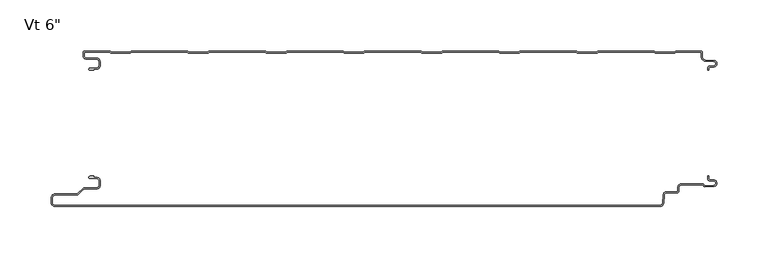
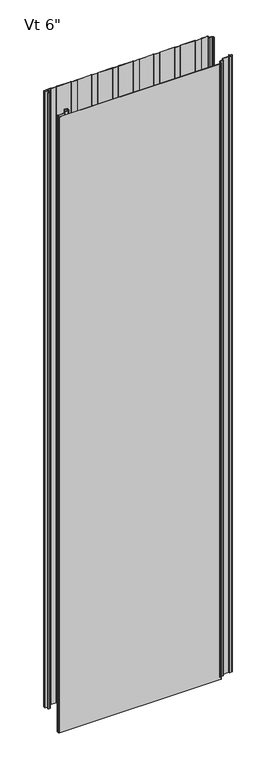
"""IFC4 building model written with IfcOpenShell, lengths in millimetres: plate geometry."""

from ifc_helpers import new_model, si_unit, point, frame, frame_2d, origin, origin_with_axes, place, context, project, spatial, polyline, circle_curve, trimmed, segment, composite_curve, outline, extrude, source, transform, mapped, element, save
from ifc_brep_helpers import plane_surface, cylinder_surface, revolved_surface, advanced_brep


def plate_540b2b8f(model_context):
    return source(origin(), model_context, "Body", "SolidModel", [
        advanced_brep(
        [(-302.7686912, -17.0015159, 2400.0), (-303.7686884, -18.0015191, 2400.0), (-302.7686912, -19.0015104, 2400.0), (-298.7684875, -19.0015105, 2400.0), (-298.7684875, -18.0015159, 2400.0), (-296.0762777, -18.0015159, 2400.0), (-292.776282, -14.7015202, 2400.0), (-292.776282, -10.301529, 2400.0), (-296.0762775, -7.0015335, 2400.0), (-306.4962564, -7.0015335, 2400.0), (-308.2662506, -5.2315393, 2400.0), (-308.2662506, -0.9999916, 2400.0), (-283.765974, -0.9999916, 2400.0), (-282.3803314, -2.2002307, 2400.0), (-263.0051651, -2.2002307, 2400.0), (-261.6195321, -1.0, 2400.0), (-207.5661167, -1.0, 2400.0), (-206.1804838, -2.2002307, 2400.0), (-186.8053175, -2.2002307, 2400.0), (-185.4196845, -1.0, 2400.0), (-131.3662691, -1.0, 2400.0), (-129.9806362, -2.2002307, 2400.0), (-110.6054699, -2.2002307, 2400.0), (-109.2198369, -1.0, 2400.0), (-55.1664215, -1.0, 2400.0), (-53.7807886, -2.2002307, 2400.0), (-34.4056223, -2.2002307, 2400.0), (-33.0199893, -1.0, 2400.0), (21.0334261, -1.0, 2400.0), (22.419059, -2.2002307, 2400.0), (41.7942253, -2.2002307, 2400.0), (43.1798583, -1.0, 2400.0), (97.2332737, -1.0, 2400.0), (98.6189066, -2.2002307, 2400.0), (117.9940729, -2.2002307, 2400.0), (119.3797059, -1.0, 2400.0), (173.4331213, -1.0, 2400.0), (174.8187542, -2.2002307, 2400.0), (194.1939205, -2.2002307, 2400.0), (195.5795535, -1.0, 2400.0), (249.6329689, -1.0, 2400.0), (251.0186018, -2.2002307, 2400.0), (270.3937681, -2.2002307, 2400.0), (271.7794011, -1.0, 2400.0), (296.2787013, -1.0, 2400.0), (296.2787013, -6.0026007, 2400.0), (300.1016499, -9.9974365, 2400.0), (308.5931719, -10.4046442, 2400.0), (308.5921924, -14.7059822, 2400.0), (304.4513685, -14.9256429, 2400.0), (302.7686884, -16.6743462, 2400.0), (302.7686884, -19.0015288, 2400.0), (303.7686884, -19.0015288, 2400.0), (303.7686884, -16.6743462, 2400.0), (304.4955779, -15.9247038, 2400.0), (308.6451655, -15.7045782, 2400.0), (308.6435732, -9.405912, 2400.0), (300.1495495, -8.9985844, 2400.0), (297.2787013, -6.0004836, 2400.0), (297.2787013, -1.4015652, 2400.0), (295.878797, -0.001568, 2400.0), (271.9275849, 2.09e-05, 2400.0), (271.0119353, -0.3417885, 2400.0), (270.0208877, -1.2002307, 2400.0), (251.3914823, -1.2002307, 2400.0), (250.4004346, -0.3417885, 2400.0), (249.4838177, 0.0, 2400.0), (195.7287046, 0.0, 2400.0), (194.8120877, -0.3417885, 2400.0), (193.8210401, -1.2002307, 2400.0), (175.1916347, -1.2002307, 2400.0), (174.200587, -0.3417885, 2400.0), (173.2839701, 0.0, 2400.0), (119.528857, 0.0, 2400.0), (118.6122401, -0.3417885, 2400.0), (117.6211925, -1.2002307, 2400.0), (98.9917871, -1.2002307, 2400.0), (98.0007394, -0.3417885, 2400.0), (97.0841225, 0.0, 2400.0), (43.3290094, 0.0, 2400.0), (42.4123925, -0.3417885, 2400.0), (41.4213449, -1.2002307, 2400.0), (22.7919395, -1.2002307, 2400.0), (21.8008918, -0.3417885, 2400.0), (20.8842749, 0.0, 2400.0), (-32.8708382, 0.0, 2400.0), (-33.7874551, -0.3417885, 2400.0), (-34.7785027, -1.2002307, 2400.0), (-53.4079081, -1.2002307, 2400.0), (-54.3989558, -0.3417885, 2400.0), (-55.3155727, 0.0, 2400.0), (-109.0706858, 0.0, 2400.0), (-109.9873027, -0.3417885, 2400.0), (-110.9783503, -1.2002307, 2400.0), (-129.6077557, -1.2002307, 2400.0), (-130.5988034, -0.3417885, 2400.0), (-131.5154203, 0.0, 2400.0), (-185.2705334, 0.0, 2400.0), (-186.1871503, -0.3417885, 2400.0), (-187.1781979, -1.2002307, 2400.0), (-205.8076033, -1.2002307, 2400.0), (-206.798651, -0.3417885, 2400.0), (-207.7152679, 0.0, 2400.0), (-261.470381, 0.0, 2400.0), (-262.3869979, -0.3417885, 2400.0), (-263.3780455, -1.2002307, 2400.0), (-282.0074509, -1.2002307, 2400.0), (-282.9984986, -0.3417885, 2400.0), (-283.9152069, 0.0, 2400.0), (-307.8662545, 8.4e-06, 2400.0), (-309.2662506, -1.3999878, 2400.0), (-309.2662506, -5.2315393, 2400.0), (-306.4962564, -8.0015335, 2400.0), (-296.0762775, -8.0015335, 2400.0), (-293.776282, -10.301529, 2400.0), (-293.776282, -14.7015202, 2400.0), (-296.0762777, -17.0015159, 2400.0), (-302.7686912, -17.0015159, 0.0), (-296.0762777, -17.0015159, 0.0), (-293.776282, -14.7015202, 0.0), (-293.776282, -10.301529, 0.0), (-296.0762775, -8.0015335, 0.0), (-306.4962564, -8.0015335, 0.0), (-309.2662506, -5.2315393, 0.0), (-309.2662506, -1.3999878, 0.0), (-307.8662545, 8.4e-06, 0.0), (-283.9151155, 8.4e-06, 0.0), (-282.9984986, -0.3417885, 0.0), (-282.0074509, -1.2002307, 0.0), (-263.3780455, -1.2002307, 0.0), (-262.3869979, -0.3417885, 0.0), (-261.470381, 0.0, 0.0), (-207.7152679, 0.0, 0.0), (-206.798651, -0.3417885, 0.0), (-205.8076033, -1.2002307, 0.0), (-187.1781979, -1.2002307, 0.0), (-186.1871503, -0.3417885, 0.0), (-185.2705334, 0.0, 0.0), (-131.5154203, 0.0, 0.0), (-130.5988034, -0.3417885, 0.0), (-129.6077557, -1.2002307, 0.0), (-110.9783503, -1.2002307, 0.0), (-109.9873027, -0.3417885, 0.0), (-109.0706858, 0.0, 0.0), (-55.3155727, 0.0, 0.0), (-54.3989558, -0.3417885, 0.0), (-53.4079081, -1.2002307, 0.0), (-34.7785027, -1.2002307, 0.0), (-33.7874551, -0.3417885, 0.0), (-32.8708382, 0.0, 0.0), (20.8842749, 0.0, 0.0), (21.8008918, -0.3417885, 0.0), (22.7919395, -1.2002307, 0.0), (41.4213449, -1.2002307, 0.0), (42.4123925, -0.3417885, 0.0), (43.3290094, 0.0, 0.0), (97.0841225, 0.0, 0.0), (98.0007394, -0.3417885, 0.0), (98.9917871, -1.2002307, 0.0), (117.6211925, -1.2002307, 0.0), (118.6122401, -0.3417885, 0.0), (119.528857, 0.0, 0.0), (173.2839701, 0.0, 0.0), (174.200587, -0.3417885, 0.0), (175.1916347, -1.2002307, 0.0), (193.8210401, -1.2002307, 0.0), (194.8120877, -0.3417885, 0.0), (195.7287046, 0.0, 0.0), (249.4838177, 0.0, 0.0), (250.4004346, -0.3417885, 0.0), (251.3914823, -1.2002307, 0.0), (270.0208877, -1.2002307, 0.0), (271.0119353, -0.3417885, 0.0), (271.9285522, 0.0, 0.0), (295.878797, 2.09e-05, 0.0), (297.2787013, -1.4015652, 0.0), (297.2787013, -6.0004836, 0.0), (300.1495495, -8.9985844, 0.0), (308.6435732, -9.405912, 0.0), (308.6451655, -15.7045782, 0.0), (304.4955779, -15.9247038, 0.0), (303.7686884, -16.6743462, 0.0), (303.7686884, -19.0015288, 0.0), (302.7686884, -19.0015288, 0.0), (302.7686884, -16.6743462, 0.0), (304.4513685, -14.9256429, 0.0), (308.5921924, -14.7059822, 0.0), (308.5931719, -10.4046442, 0.0), (300.1016499, -9.9974365, 0.0), (296.2787013, -6.0026007, 0.0), (296.2787013, -1.0, 0.0), (271.7794011, -1.0, 0.0), (270.3937681, -2.2002307, 0.0), (251.0186018, -2.2002307, 0.0), (249.6329689, -1.0, 0.0), (195.5795535, -1.0, 0.0), (194.1939205, -2.2002307, 0.0), (174.8187542, -2.2002307, 0.0), (173.4331213, -1.0, 0.0), (119.3797059, -1.0, 0.0), (117.9940729, -2.2002307, 0.0), (98.6189066, -2.2002307, 0.0), (97.2332737, -1.0, 0.0), (43.1798583, -1.0, 0.0), (41.7942253, -2.2002307, 0.0), (22.419059, -2.2002307, 0.0), (21.0334261, -1.0, 0.0), (-33.0199893, -1.0, 0.0), (-34.4056223, -2.2002307, 0.0), (-53.7807886, -2.2002307, 0.0), (-55.1664215, -1.0, 0.0), (-109.2198369, -1.0, 0.0), (-110.6054699, -2.2002307, 0.0), (-129.9806362, -2.2002307, 0.0), (-131.3662691, -1.0, 0.0), (-185.4196845, -1.0, 0.0), (-186.8053175, -2.2002307, 0.0), (-206.1804838, -2.2002307, 0.0), (-207.5661167, -1.0, 0.0), (-261.6195321, -1.0, 0.0), (-263.0051651, -2.2002307, 0.0), (-282.3803314, -2.2002307, 0.0), (-283.765974, -0.9999916, 0.0), (-308.2662506, -0.9999916, 0.0), (-308.2662506, -5.2315393, 0.0), (-306.4962564, -7.0015335, 0.0), (-296.0762775, -7.0015335, 0.0), (-292.776282, -10.301529, 0.0), (-292.776282, -14.7015202, 0.0), (-296.0762777, -18.0015159, 0.0), (-298.7684875, -18.0015159, 0.0), (-298.7684875, -19.0015105, 0.0), (-302.7686912, -19.0015105, 0.0), (-303.7686884, -18.0015191, 0.0)],
        [
            (0, 1, circle_curve(frame((-302.7686912, -18.0015132, 2400.0), z_axis=(0.0, 0.0, 1.0), x_axis=(1.0, 0.0, 0.0)), 0.9999973)),
            (1, 2, circle_curve(frame((-302.7686912, -18.0015132, 2400.0), z_axis=(0.0, 0.0, 1.0), x_axis=(1.0, 0.0, 0.0)), 0.9999972)),
            (2, 3),
            (3, 4),
            (4, 5),
            (5, 6, circle_curve(frame((-296.0762777, -14.7015202, 2400.0), z_axis=(0.0, 0.0, 1.0), x_axis=(1.0, 0.0, 0.0)), 3.2999957)),
            (6, 7),
            (7, 8, circle_curve(frame((-296.0762775, -10.301529, 2400.0), z_axis=(0.0, 0.0, 1.0), x_axis=(1.0, 0.0, 0.0)), 3.2999955)),
            (8, 9),
            (9, 10, circle_curve(frame((-306.4962564, -5.2315393, 2400.0), z_axis=(0.0, 0.0, -1.0), x_axis=(1.0, 0.0, 0.0)), 1.7699942)),
            (10, 11),
            (11, 12),
            (12, 13),
            (13, 14),
            (14, 15),
            (15, 16),
            (16, 17),
            (17, 18),
            (18, 19),
            (19, 20),
            (20, 21),
            (21, 22),
            (22, 23),
            (23, 24),
            (24, 25),
            (25, 26),
            (26, 27),
            (27, 28),
            (28, 29),
            (29, 30),
            (30, 31),
            (31, 32),
            (32, 33),
            (33, 34),
            (34, 35),
            (35, 36),
            (36, 37),
            (37, 38),
            (38, 39),
            (39, 40),
            (40, 41),
            (41, 42),
            (42, 43),
            (43, 44),
            (44, 45),
            (45, 46, circle_curve(frame((300.2939817, -5.9867338, 2400.0), z_axis=(0.0, 0.0, 1.0), x_axis=(1.0, 0.0, 0.0)), 4.0153117)),
            (46, 47),
            (47, 48, circle_curve(frame((308.4781032, -12.5552871, 2400.0), z_axis=(0.0, 0.0, -1.0), x_axis=(1.0, 0.0, 0.0)), 2.153719)),
            (48, 49),
            (49, 50, circle_curve(frame((304.5186869, -16.6743462, 2400.0), z_axis=(0.0, 0.0, 1.0), x_axis=(1.0, 0.0, 0.0)), 1.7499985)),
            (50, 51),
            (51, 52),
            (52, 53),
            (53, 54, circle_curve(frame((304.5186869, -16.6743462, 2400.0), z_axis=(0.0, 0.0, -1.0), x_axis=(1.0, 0.0, 0.0)), 0.7499985)),
            (54, 55),
            (55, 56, circle_curve(frame((308.4781032, -12.5552871, 2400.0), z_axis=(0.0, 0.0, 1.0), x_axis=(1.0, 0.0, 0.0)), 3.153719)),
            (56, 57),
            (57, 58, circle_curve(frame((300.2939817, -5.9867338, 2400.0), z_axis=(0.0, 0.0, -1.0), x_axis=(1.0, 0.0, 0.0)), 3.0153117)),
            (58, 59),
            (59, 60, circle_curve(frame((295.8787041, -1.4015652, 2400.0), z_axis=(0.0, 0.0, 1.0), x_axis=(1.0, 0.0, 0.0)), 1.3999972)),
            (60, 61),
            (61, 62, circle_curve(frame((271.9285522, -1.3999972, 2400.0), z_axis=(0.0, 0.0, 1.0), x_axis=(1.0, 0.0, 0.0)), 1.3999972)),
            (62, 63),
            (63, 64),
            (64, 65),
            (65, 66, circle_curve(frame((249.4838177, -1.3999972, 2400.0), z_axis=(0.0, 0.0, 1.0), x_axis=(1.0, 0.0, 0.0)), 1.3999972)),
            (66, 67),
            (67, 68, circle_curve(frame((195.7287046, -1.3999972, 2400.0), z_axis=(0.0, 0.0, 1.0), x_axis=(1.0, 0.0, 0.0)), 1.3999972)),
            (68, 69),
            (69, 70),
            (70, 71),
            (71, 72, circle_curve(frame((173.2839701, -1.3999972, 2400.0), z_axis=(0.0, 0.0, 1.0), x_axis=(1.0, 0.0, 0.0)), 1.3999972)),
            (72, 73),
            (73, 74, circle_curve(frame((119.528857, -1.3999972, 2400.0), z_axis=(0.0, 0.0, 1.0), x_axis=(1.0, 0.0, 0.0)), 1.3999972)),
            (74, 75),
            (75, 76),
            (76, 77),
            (77, 78, circle_curve(frame((97.0841225, -1.3999972, 2400.0), z_axis=(0.0, 0.0, 1.0), x_axis=(1.0, 0.0, 0.0)), 1.3999972)),
            (78, 79),
            (79, 80, circle_curve(frame((43.3290094, -1.3999972, 2400.0), z_axis=(0.0, 0.0, 1.0), x_axis=(1.0, 0.0, 0.0)), 1.3999972)),
            (80, 81),
            (81, 82),
            (82, 83),
            (83, 84, circle_curve(frame((20.8842749, -1.3999972, 2400.0), z_axis=(0.0, 0.0, 1.0), x_axis=(1.0, 0.0, 0.0)), 1.3999972)),
            (84, 85),
            (85, 86, circle_curve(frame((-32.8708382, -1.3999972, 2400.0), z_axis=(0.0, 0.0, 1.0), x_axis=(1.0, 0.0, 0.0)), 1.3999972)),
            (86, 87),
            (87, 88),
            (88, 89),
            (89, 90, circle_curve(frame((-55.3155727, -1.3999972, 2400.0), z_axis=(0.0, 0.0, 1.0), x_axis=(1.0, 0.0, 0.0)), 1.3999972)),
            (90, 91),
            (91, 92, circle_curve(frame((-109.0706858, -1.3999972, 2400.0), z_axis=(0.0, 0.0, 1.0), x_axis=(1.0, 0.0, 0.0)), 1.3999972)),
            (92, 93),
            (93, 94),
            (94, 95),
            (95, 96, circle_curve(frame((-131.5154203, -1.3999972, 2400.0), z_axis=(0.0, 0.0, 1.0), x_axis=(1.0, 0.0, 0.0)), 1.3999972)),
            (96, 97),
            (97, 98, circle_curve(frame((-185.2705334, -1.3999972, 2400.0), z_axis=(0.0, 0.0, 1.0), x_axis=(1.0, 0.0, 0.0)), 1.3999972)),
            (98, 99),
            (99, 100),
            (100, 101),
            (101, 102, circle_curve(frame((-207.7152679, -1.3999972, 2400.0), z_axis=(0.0, 0.0, 1.0), x_axis=(1.0, 0.0, 0.0)), 1.3999972)),
            (102, 103),
            (103, 104, circle_curve(frame((-261.470381, -1.3999972, 2400.0), z_axis=(0.0, 0.0, 1.0), x_axis=(1.0, 0.0, 0.0)), 1.3999972)),
            (104, 105),
            (105, 106),
            (106, 107),
            (107, 108, circle_curve(frame((-283.9151155, -1.3999972, 2400.0), z_axis=(0.0, 0.0, 1.0), x_axis=(1.0, 0.0, 0.0)), 1.3999972)),
            (108, 109),
            (109, 110, circle_curve(frame((-307.8662545, -1.3999878, 2400.0), z_axis=(0.0, 0.0, 1.0), x_axis=(1.0, 0.0, 0.0)), 1.3999962)),
            (110, 111),
            (111, 112, circle_curve(frame((-306.4962564, -5.2315393, 2400.0), z_axis=(0.0, 0.0, 1.0), x_axis=(1.0, 0.0, 0.0)), 2.7699942)),
            (112, 113),
            (113, 114, circle_curve(frame((-296.0762775, -10.301529, 2400.0), z_axis=(0.0, 0.0, -1.0), x_axis=(1.0, 0.0, 0.0)), 2.2999955)),
            (114, 115),
            (115, 116, circle_curve(frame((-296.0762777, -14.7015202, 2400.0), z_axis=(0.0, 0.0, -1.0), x_axis=(1.0, 0.0, 0.0)), 2.2999957)),
            (116, 0),
            (117, 118),
            (118, 119, circle_curve(frame((-296.0762777, -14.7015202, 0.0), z_axis=(0.0, 0.0, 1.0), x_axis=(1.0, 0.0, 0.0)), 2.2999957)),
            (119, 120),
            (120, 121, circle_curve(frame((-296.0762775, -10.301529, 0.0), z_axis=(0.0, 0.0, 1.0), x_axis=(1.0, 0.0, 0.0)), 2.2999955)),
            (121, 122),
            (122, 123, circle_curve(frame((-306.4962564, -5.2315393, 0.0), z_axis=(0.0, 0.0, -1.0), x_axis=(1.0, 0.0, 0.0)), 2.7699942)),
            (123, 124),
            (124, 125, circle_curve(frame((-307.8662545, -1.3999878, 0.0), z_axis=(0.0, 0.0, -1.0), x_axis=(1.0, 0.0, 0.0)), 1.3999962)),
            (125, 126),
            (126, 127, circle_curve(frame((-283.9151155, -1.3999972, 0.0), z_axis=(0.0, 0.0, -1.0), x_axis=(1.0, 0.0, 0.0)), 1.3999972)),
            (127, 128),
            (128, 129),
            (129, 130),
            (130, 131, circle_curve(frame((-261.470381, -1.3999972, 0.0), z_axis=(0.0, 0.0, -1.0), x_axis=(1.0, 0.0, 0.0)), 1.3999972)),
            (131, 132),
            (132, 133, circle_curve(frame((-207.7152679, -1.3999972, 0.0), z_axis=(0.0, 0.0, -1.0), x_axis=(1.0, 0.0, 0.0)), 1.3999972)),
            (133, 134),
            (134, 135),
            (135, 136),
            (136, 137, circle_curve(frame((-185.2705334, -1.3999972, 0.0), z_axis=(0.0, 0.0, -1.0), x_axis=(1.0, 0.0, 0.0)), 1.3999972)),
            (137, 138),
            (138, 139, circle_curve(frame((-131.5154203, -1.3999972, 0.0), z_axis=(0.0, 0.0, -1.0), x_axis=(1.0, 0.0, 0.0)), 1.3999972)),
            (139, 140),
            (140, 141),
            (141, 142),
            (142, 143, circle_curve(frame((-109.0706858, -1.3999972, 0.0), z_axis=(0.0, 0.0, -1.0), x_axis=(1.0, 0.0, 0.0)), 1.3999972)),
            (143, 144),
            (144, 145, circle_curve(frame((-55.3155727, -1.3999972, 0.0), z_axis=(0.0, 0.0, -1.0), x_axis=(1.0, 0.0, 0.0)), 1.3999972)),
            (145, 146),
            (146, 147),
            (147, 148),
            (148, 149, circle_curve(frame((-32.8708382, -1.3999972, 0.0), z_axis=(0.0, 0.0, -1.0), x_axis=(1.0, 0.0, 0.0)), 1.3999972)),
            (149, 150),
            (150, 151, circle_curve(frame((20.8842749, -1.3999972, 0.0), z_axis=(0.0, 0.0, -1.0), x_axis=(1.0, 0.0, 0.0)), 1.3999972)),
            (151, 152),
            (152, 153),
            (153, 154),
            (154, 155, circle_curve(frame((43.3290094, -1.3999972, 0.0), z_axis=(0.0, 0.0, -1.0), x_axis=(1.0, 0.0, 0.0)), 1.3999972)),
            (155, 156),
            (156, 157, circle_curve(frame((97.0841225, -1.3999972, 0.0), z_axis=(0.0, 0.0, -1.0), x_axis=(1.0, 0.0, 0.0)), 1.3999972)),
            (157, 158),
            (158, 159),
            (159, 160),
            (160, 161, circle_curve(frame((119.528857, -1.3999972, 0.0), z_axis=(0.0, 0.0, -1.0), x_axis=(1.0, 0.0, 0.0)), 1.3999972)),
            (161, 162),
            (162, 163, circle_curve(frame((173.2839701, -1.3999972, 0.0), z_axis=(0.0, 0.0, -1.0), x_axis=(1.0, 0.0, 0.0)), 1.3999972)),
            (163, 164),
            (164, 165),
            (165, 166),
            (166, 167, circle_curve(frame((195.7287046, -1.3999972, 0.0), z_axis=(0.0, 0.0, -1.0), x_axis=(1.0, 0.0, 0.0)), 1.3999972)),
            (167, 168),
            (168, 169, circle_curve(frame((249.4838177, -1.3999972, 0.0), z_axis=(0.0, 0.0, -1.0), x_axis=(1.0, 0.0, 0.0)), 1.3999972)),
            (169, 170),
            (170, 171),
            (171, 172),
            (172, 173, circle_curve(frame((271.9285522, -1.3999972, 0.0), z_axis=(0.0, 0.0, -1.0), x_axis=(1.0, 0.0, 0.0)), 1.3999972)),
            (173, 174),
            (174, 175, circle_curve(frame((295.8787041, -1.4015652, 0.0), z_axis=(0.0, 0.0, -1.0), x_axis=(1.0, 0.0, 0.0)), 1.3999972)),
            (175, 176),
            (176, 177, circle_curve(frame((300.2939817, -5.9867338, 0.0), z_axis=(0.0, 0.0, 1.0), x_axis=(1.0, 0.0, 0.0)), 3.0153117)),
            (177, 178),
            (178, 179, circle_curve(frame((308.4781032, -12.5552871, 0.0), z_axis=(0.0, 0.0, -1.0), x_axis=(1.0, 0.0, 0.0)), 3.153719)),
            (179, 180),
            (180, 181, circle_curve(frame((304.5186869, -16.6743462, 0.0), z_axis=(0.0, 0.0, 1.0), x_axis=(1.0, 0.0, 0.0)), 0.7499985)),
            (181, 182),
            (182, 183),
            (183, 184),
            (184, 185, circle_curve(frame((304.5186869, -16.6743462, 0.0), z_axis=(0.0, 0.0, -1.0), x_axis=(1.0, 0.0, 0.0)), 1.7499985)),
            (185, 186),
            (186, 187, circle_curve(frame((308.4781032, -12.5552871, 0.0), z_axis=(0.0, 0.0, 1.0), x_axis=(1.0, 0.0, 0.0)), 2.153719)),
            (187, 188),
            (188, 189, circle_curve(frame((300.2939817, -5.9867338, 0.0), z_axis=(0.0, 0.0, -1.0), x_axis=(1.0, 0.0, 0.0)), 4.0153117)),
            (189, 190),
            (190, 191),
            (191, 192),
            (192, 193),
            (193, 194),
            (194, 195),
            (195, 196),
            (196, 197),
            (197, 198),
            (198, 199),
            (199, 200),
            (200, 201),
            (201, 202),
            (202, 203),
            (203, 204),
            (204, 205),
            (205, 206),
            (206, 207),
            (207, 208),
            (208, 209),
            (209, 210),
            (210, 211),
            (211, 212),
            (212, 213),
            (213, 214),
            (214, 215),
            (215, 216),
            (216, 217),
            (217, 218),
            (218, 219),
            (219, 220),
            (220, 221),
            (221, 222),
            (222, 223),
            (223, 224),
            (224, 225, circle_curve(frame((-306.4962564, -5.2315393, 0.0), z_axis=(0.0, 0.0, 1.0), x_axis=(1.0, 0.0, 0.0)), 1.7699942)),
            (225, 226),
            (226, 227, circle_curve(frame((-296.0762775, -10.301529, 0.0), z_axis=(0.0, 0.0, -1.0), x_axis=(1.0, 0.0, 0.0)), 3.2999955)),
            (227, 228),
            (228, 229, circle_curve(frame((-296.0762777, -14.7015202, 0.0), z_axis=(0.0, 0.0, -1.0), x_axis=(1.0, 0.0, 0.0)), 3.2999957)),
            (229, 230),
            (230, 231),
            (231, 232),
            (232, 233, circle_curve(frame((-302.7686912, -18.0015132, 0.0), z_axis=(0.0, 0.0, -1.0), x_axis=(1.0, 0.0, 0.0)), 0.9999972)),
            (233, 117, circle_curve(frame((-302.7686912, -18.0015132, 0.0), z_axis=(0.0, 0.0, -1.0), x_axis=(1.0, 0.0, 0.0)), 0.9999973)),
            (116, 118),
            (117, 0),
            (115, 119),
            (114, 120),
            (113, 121),
            (112, 122),
            (111, 123),
            (110, 124),
            (109, 125),
            (108, 126),
            (90, 144),
            (143, 91),
            (107, 127),
            (106, 128),
            (105, 129),
            (103, 131),
            (130, 104),
            (101, 133),
            (132, 102),
            (86, 148),
            (147, 87),
            (142, 92),
            (141, 93),
            (96, 138),
            (137, 97),
            (89, 145),
            (88, 146),
            (85, 149),
            (136, 98),
            (99, 135),
            (134, 100),
            (95, 139),
            (94, 140),
            (2, 232),
            (231, 3),
            (1, 233),
            (84, 150),
            (83, 151),
            (82, 152),
            (81, 153),
            (80, 154),
            (79, 155),
            (78, 156),
            (77, 157),
            (76, 158),
            (75, 159),
            (74, 160),
            (73, 161),
            (72, 162),
            (71, 163),
            (70, 164),
            (69, 165),
            (68, 166),
            (67, 167),
            (66, 168),
            (65, 169),
            (64, 170),
            (63, 171),
            (62, 172),
            (61, 173),
            (60, 174),
            (59, 175),
            (58, 176),
            (57, 177),
            (56, 178),
            (55, 179),
            (54, 180),
            (53, 181),
            (52, 182),
            (51, 183),
            (50, 184),
            (49, 185),
            (48, 186),
            (47, 187),
            (46, 188),
            (45, 189),
            (44, 190),
            (43, 191),
            (42, 192),
            (41, 193),
            (40, 194),
            (39, 195),
            (38, 196),
            (37, 197),
            (36, 198),
            (35, 199),
            (34, 200),
            (33, 201),
            (32, 202),
            (31, 203),
            (30, 204),
            (29, 205),
            (28, 206),
            (27, 207),
            (26, 208),
            (25, 209),
            (24, 210),
            (23, 211),
            (22, 212),
            (21, 213),
            (20, 214),
            (19, 215),
            (18, 216),
            (17, 217),
            (16, 218),
            (15, 219),
            (14, 220),
            (13, 221),
            (12, 222),
            (11, 223),
            (10, 224),
            (9, 225),
            (8, 226),
            (7, 227),
            (6, 228),
            (5, 229),
            (4, 230),
        ],
        [
            plane_surface(frame((0.0, 0.0, 2400.0), z_axis=(0.0, 0.0, 1.0), x_axis=(0.0, 1.0, 0.0))),
            plane_surface(frame((0.0, 0.0, 0.0), z_axis=(0.0, 0.0, -1.0), x_axis=(0.0, 1.0, 0.0))),
            plane_surface(frame((-302.7686912, -17.0015159, 2400.0), z_axis=(0.0, 1.0, 0.0), x_axis=(0.0, 0.0, -1.0))),
            revolved_surface(polyline([(-293.776282, -14.7015202, 0.0), (-293.776282, -14.7015202, 2400.0)]), (-296.0762777, -14.7015202, 2400.0), (0.0, 0.0, -1.0)),
            plane_surface(frame((-293.776282, -14.7015202, 2400.0), z_axis=(-1.0, 0.0, 0.0), x_axis=(0.0, 0.0, -1.0))),
            revolved_surface(polyline([(-293.776282, -10.301529, 0.0), (-293.776282, -10.301529, 2400.0)]), (-296.0762775, -10.301529, 2400.0), (0.0, 0.0, -1.0)),
            plane_surface(frame((-296.0762775, -8.0015335, 2400.0), z_axis=(0.0, -1.0, 0.0), x_axis=(0.0, 0.0, -1.0))),
            cylinder_surface(frame((-306.4962564, -5.2315393, 2400.0), z_axis=(0.0, 0.0, 1.0), x_axis=(1.0, 0.0, 0.0)), 2.7699942),
            plane_surface(frame((-309.2662506, -5.2315393, 2400.0), z_axis=(-1.0, 0.0, 0.0), x_axis=(0.0, 0.0, -1.0))),
            cylinder_surface(frame((-307.8662545, -1.3999878, 2400.0), z_axis=(0.0, 0.0, 1.0), x_axis=(1.0, 0.0, 0.0)), 1.3999962),
            plane_surface(frame((-307.8662545, 8.4e-06, 2400.0), z_axis=(0.0, 1.0, 0.0), x_axis=(0.0, 0.0, -1.0))),
            plane_surface(frame((-109.0706858, 0.0, 2400.0), z_axis=(0.0, 1.0, 0.0), x_axis=(0.0, 0.0, -1.0))),
            cylinder_surface(frame((-283.9151155, -1.3999972, 2400.0), z_axis=(0.0, 0.0, 1.0), x_axis=(1.0, 0.0, 0.0)), 1.3999972),
            plane_surface(frame((-282.9984986, -0.3417885, 2400.0), z_axis=(0.6547276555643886, 0.755864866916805, 0.0), x_axis=(0.0, 0.0, -1.0))),
            plane_surface(frame((-272.6927482, -1.2002307, 2400.0), z_axis=(0.0, 1.0, 0.0), x_axis=(0.0, 0.0, -1.0))),
            cylinder_surface(frame((-261.470381, -1.3999972, 2400.0), z_axis=(0.0, 0.0, 1.0), x_axis=(1.0, 0.0, 0.0)), 1.3999972),
            plane_surface(frame((-263.3780455, -1.2002307, 2400.0), z_axis=(-0.6547276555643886, 0.755864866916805, 0.0), x_axis=(0.0, 0.0, -1.0))),
            cylinder_surface(frame((-207.7152679, -1.3999972, 2400.0), z_axis=(0.0, 0.0, 1.0), x_axis=(1.0, 0.0, 0.0)), 1.3999972),
            plane_surface(frame((-34.7785027, -1.2002307, 2400.0), z_axis=(-0.6547276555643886, 0.755864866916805, 0.0), x_axis=(0.0, 0.0, -1.0))),
            cylinder_surface(frame((-109.0706858, -1.3999972, 2400.0), z_axis=(0.0, 0.0, 1.0), x_axis=(1.0, 0.0, 0.0)), 1.3999972),
            plane_surface(frame((-110.9783503, -1.2002307, 2400.0), z_axis=(-0.6547276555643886, 0.755864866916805, 0.0), x_axis=(0.0, 0.0, -1.0))),
            plane_surface(frame((-185.2705334, 0.0, 2400.0), z_axis=(0.0, 1.0, 0.0), x_axis=(0.0, 0.0, -1.0))),
            cylinder_surface(frame((-55.3155727, -1.3999972, 2400.0), z_axis=(0.0, 0.0, 1.0), x_axis=(1.0, 0.0, 0.0)), 1.3999972),
            plane_surface(frame((-54.3989558, -0.3417885, 2400.0), z_axis=(0.6547276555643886, 0.755864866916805, 0.0), x_axis=(0.0, 0.0, -1.0))),
            plane_surface(frame((-44.0932054, -1.2002307, 2400.0), z_axis=(0.0, 1.0, 0.0), x_axis=(0.0, 0.0, -1.0))),
            cylinder_surface(frame((-32.8708382, -1.3999972, 2400.0), z_axis=(0.0, 0.0, 1.0), x_axis=(1.0, 0.0, 0.0)), 1.3999972),
            cylinder_surface(frame((-185.2705334, -1.3999972, 2400.0), z_axis=(0.0, 0.0, 1.0), x_axis=(1.0, 0.0, 0.0)), 1.3999972),
            plane_surface(frame((-196.4929006, -1.2002307, 2400.0), z_axis=(0.0, 1.0, 0.0), x_axis=(0.0, 0.0, -1.0))),
            plane_surface(frame((-206.798651, -0.3417885, 2400.0), z_axis=(0.6547276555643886, 0.755864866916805, 0.0), x_axis=(0.0, 0.0, -1.0))),
            plane_surface(frame((-187.1781979, -1.2002307, 2400.0), z_axis=(-0.6547276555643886, 0.755864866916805, 0.0), x_axis=(0.0, 0.0, -1.0))),
            plane_surface(frame((-261.470381, 0.0, 2400.0), z_axis=(0.0, 1.0, 0.0), x_axis=(0.0, 0.0, -1.0))),
            cylinder_surface(frame((-131.5154203, -1.3999972, 2400.0), z_axis=(0.0, 0.0, 1.0), x_axis=(1.0, 0.0, 0.0)), 1.3999972),
            plane_surface(frame((-130.5988034, -0.3417885, 2400.0), z_axis=(0.6547276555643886, 0.755864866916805, 0.0), x_axis=(0.0, 0.0, -1.0))),
            plane_surface(frame((-120.293053, -1.2002307, 2400.0), z_axis=(0.0, 1.0, 0.0), x_axis=(0.0, 0.0, -1.0))),
            plane_surface(frame((-298.7684875, -19.0015105, 2400.0), z_axis=(0.0, -1.0, 0.0), x_axis=(0.0, 0.0, -1.0))),
            cylinder_surface(frame((-302.7686912, -18.0015132, 2400.0), z_axis=(0.0, 0.0, 1.0), x_axis=(1.0, 0.0, 0.0)), 0.9999972),
            cylinder_surface(frame((-302.7686912, -18.0015132, 2400.0), z_axis=(0.0, 0.0, 1.0), x_axis=(1.0, 0.0, 0.0)), 0.9999973),
            plane_surface(frame((-32.8708382, 0.0, 2400.0), z_axis=(0.0, 1.0, 0.0), x_axis=(0.0, 0.0, -1.0))),
            cylinder_surface(frame((20.8842749, -1.3999972, 2400.0), z_axis=(0.0, 0.0, 1.0), x_axis=(1.0, 0.0, 0.0)), 1.3999972),
            plane_surface(frame((21.8008918, -0.3417885, 2400.0), z_axis=(0.6547276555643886, 0.755864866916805, 0.0), x_axis=(0.0, 0.0, -1.0))),
            plane_surface(frame((32.1066422, -1.2002307, 2400.0), z_axis=(0.0, 1.0, 0.0), x_axis=(0.0, 0.0, -1.0))),
            plane_surface(frame((41.4213449, -1.2002307, 2400.0), z_axis=(-0.6547276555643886, 0.755864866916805, 0.0), x_axis=(0.0, 0.0, -1.0))),
            cylinder_surface(frame((43.3290094, -1.3999972, 2400.0), z_axis=(0.0, 0.0, 1.0), x_axis=(1.0, 0.0, 0.0)), 1.3999972),
            plane_surface(frame((43.3290094, 0.0, 2400.0), z_axis=(0.0, 1.0, 0.0), x_axis=(0.0, 0.0, -1.0))),
            cylinder_surface(frame((97.0841225, -1.3999972, 2400.0), z_axis=(0.0, 0.0, 1.0), x_axis=(1.0, 0.0, 0.0)), 1.3999972),
            plane_surface(frame((98.0007394, -0.3417885, 2400.0), z_axis=(0.6547276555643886, 0.755864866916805, 0.0), x_axis=(0.0, 0.0, -1.0))),
            plane_surface(frame((108.3064898, -1.2002307, 2400.0), z_axis=(0.0, 1.0, 0.0), x_axis=(0.0, 0.0, -1.0))),
            plane_surface(frame((117.6211925, -1.2002307, 2400.0), z_axis=(-0.6547276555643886, 0.755864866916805, 0.0), x_axis=(0.0, 0.0, -1.0))),
            cylinder_surface(frame((119.528857, -1.3999972, 2400.0), z_axis=(0.0, 0.0, 1.0), x_axis=(1.0, 0.0, 0.0)), 1.3999972),
            plane_surface(frame((119.528857, 0.0, 2400.0), z_axis=(0.0, 1.0, 0.0), x_axis=(0.0, 0.0, -1.0))),
            cylinder_surface(frame((173.2839701, -1.3999972, 2400.0), z_axis=(0.0, 0.0, 1.0), x_axis=(1.0, 0.0, 0.0)), 1.3999972),
            plane_surface(frame((174.200587, -0.3417885, 2400.0), z_axis=(0.6547276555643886, 0.755864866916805, 0.0), x_axis=(0.0, 0.0, -1.0))),
            plane_surface(frame((184.5063374, -1.2002307, 2400.0), z_axis=(0.0, 1.0, 0.0), x_axis=(0.0, 0.0, -1.0))),
            plane_surface(frame((193.8210401, -1.2002307, 2400.0), z_axis=(-0.6547276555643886, 0.755864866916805, 0.0), x_axis=(0.0, 0.0, -1.0))),
            cylinder_surface(frame((195.7287046, -1.3999972, 2400.0), z_axis=(0.0, 0.0, 1.0), x_axis=(1.0, 0.0, 0.0)), 1.3999972),
            plane_surface(frame((195.7287046, 0.0, 2400.0), z_axis=(0.0, 1.0, 0.0), x_axis=(0.0, 0.0, -1.0))),
            cylinder_surface(frame((249.4838177, -1.3999972, 2400.0), z_axis=(0.0, 0.0, 1.0), x_axis=(1.0, 0.0, 0.0)), 1.3999972),
            plane_surface(frame((250.4004346, -0.3417885, 2400.0), z_axis=(0.6547276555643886, 0.755864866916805, 0.0), x_axis=(0.0, 0.0, -1.0))),
            plane_surface(frame((260.706185, -1.2002307, 2400.0), z_axis=(0.0, 1.0, 0.0), x_axis=(0.0, 0.0, -1.0))),
            plane_surface(frame((270.0208877, -1.2002307, 2400.0), z_axis=(-0.6547276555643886, 0.755864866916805, 0.0), x_axis=(0.0, 0.0, -1.0))),
            cylinder_surface(frame((271.9285522, -1.3999972, 2400.0), z_axis=(0.0, 0.0, 1.0), x_axis=(1.0, 0.0, 0.0)), 1.3999972),
            plane_surface(frame((271.9275849, 2.09e-05, 2400.0), z_axis=(0.0, 1.0, 0.0), x_axis=(0.0, 0.0, -1.0))),
            cylinder_surface(frame((295.8787041, -1.4015652, 2400.0), z_axis=(0.0, 0.0, 1.0), x_axis=(1.0, 0.0, 0.0)), 1.3999972),
            plane_surface(frame((297.2787013, -1.4015652, 2400.0), z_axis=(1.0, 0.0, 0.0), x_axis=(0.0, 0.0, -1.0))),
            revolved_surface(polyline([(303.3092934, -5.9867338, 0.0), (303.3092934, -5.9867338, 2400.0)]), (300.2939817, -5.9867338, 2400.0), (0.0, 0.0, -1.0)),
            plane_surface(frame((300.1495495, -8.9985844, 2400.0), z_axis=(0.047899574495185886, 0.9988521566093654, 0.0), x_axis=(0.0, 0.0, -1.0))),
            cylinder_surface(frame((308.4781032, -12.5552871, 2400.0), z_axis=(0.0, 0.0, 1.0), x_axis=(1.0, 0.0, 0.0)), 3.153719),
            plane_surface(frame((308.6451655, -15.7045782, 2400.0), z_axis=(0.05297310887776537, -0.9985959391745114, 0.0), x_axis=(0.0, 0.0, -1.0))),
            revolved_surface(polyline([(305.2686854, -16.6743462, 0.0), (305.2686854, -16.6743462, 2400.0)]), (304.5186869, -16.6743462, 2400.0), (0.0, 0.0, -1.0)),
            plane_surface(frame((303.7686884, -17.5871409, 2400.0), z_axis=(1.0, 0.0, 0.0), x_axis=(0.0, 0.0, -1.0))),
            plane_surface(frame((303.7686884, -19.0015288, 2400.0), z_axis=(0.0, -1.0, 0.0), x_axis=(0.0, 0.0, -1.0))),
            plane_surface(frame((302.7686884, -17.5871409, 2400.0), z_axis=(-1.0, 0.0, 0.0), x_axis=(0.0, 0.0, -1.0))),
            cylinder_surface(frame((304.5186869, -16.6743462, 2400.0), z_axis=(0.0, 0.0, 1.0), x_axis=(1.0, 0.0, 0.0)), 1.7499985),
            plane_surface(frame((304.4513685, -14.9256429, 2400.0), z_axis=(-0.05297310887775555, 0.998595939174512, 0.0), x_axis=(0.0, 0.0, -1.0))),
            revolved_surface(polyline([(310.63182220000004, -12.5552871, 0.0), (310.63182220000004, -12.5552871, 2400.0)]), (308.4781032, -12.5552871, 2400.0), (0.0, 0.0, -1.0)),
            plane_surface(frame((308.5931719, -10.4046442, 2400.0), z_axis=(-0.04789957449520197, -0.9988521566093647, 0.0), x_axis=(0.0, 0.0, -1.0))),
            cylinder_surface(frame((300.2939817, -5.9867338, 2400.0), z_axis=(0.0, 0.0, 1.0), x_axis=(1.0, 0.0, 0.0)), 4.0153117),
            plane_surface(frame((296.2787013, -6.0026007, 2400.0), z_axis=(-1.0, 0.0, 0.0), x_axis=(0.0, 0.0, -1.0))),
            plane_surface(frame((296.2787013, -1.0, 2400.0), z_axis=(0.0, -1.0, 0.0), x_axis=(0.0, 0.0, -1.0))),
            plane_surface(frame((271.7794011, -1.0, 2400.0), z_axis=(0.6547276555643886, -0.755864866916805, 0.0), x_axis=(0.0, 0.0, -1.0))),
            plane_surface(frame((270.3937681, -2.2002307, 2400.0), z_axis=(0.0, -1.0, 0.0), x_axis=(0.0, 0.0, -1.0))),
            plane_surface(frame((251.0186018, -2.2002307, 2400.0), z_axis=(-0.6547276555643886, -0.755864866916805, 0.0), x_axis=(0.0, 0.0, -1.0))),
            plane_surface(frame((249.6329689, -1.0, 2400.0), z_axis=(0.0, -1.0, 0.0), x_axis=(0.0, 0.0, -1.0))),
            plane_surface(frame((195.5795535, -1.0, 2400.0), z_axis=(0.6547276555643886, -0.755864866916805, 0.0), x_axis=(0.0, 0.0, -1.0))),
            plane_surface(frame((194.1939205, -2.2002307, 2400.0), z_axis=(0.0, -1.0, 0.0), x_axis=(0.0, 0.0, -1.0))),
            plane_surface(frame((174.8187542, -2.2002307, 2400.0), z_axis=(-0.6547276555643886, -0.755864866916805, 0.0), x_axis=(0.0, 0.0, -1.0))),
            plane_surface(frame((173.4331213, -1.0, 2400.0), z_axis=(0.0, -1.0, 0.0), x_axis=(0.0, 0.0, -1.0))),
            plane_surface(frame((119.3797059, -1.0, 2400.0), z_axis=(0.6547276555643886, -0.755864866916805, 0.0), x_axis=(0.0, 0.0, -1.0))),
            plane_surface(frame((117.9940729, -2.2002307, 2400.0), z_axis=(0.0, -1.0, 0.0), x_axis=(0.0, 0.0, -1.0))),
            plane_surface(frame((98.6189066, -2.2002307, 2400.0), z_axis=(-0.6547276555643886, -0.755864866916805, 0.0), x_axis=(0.0, 0.0, -1.0))),
            plane_surface(frame((97.2332737, -1.0, 2400.0), z_axis=(0.0, -1.0, 0.0), x_axis=(0.0, 0.0, -1.0))),
            plane_surface(frame((43.1798583, -1.0, 2400.0), z_axis=(0.6547276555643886, -0.755864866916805, 0.0), x_axis=(0.0, 0.0, -1.0))),
            plane_surface(frame((41.7942253, -2.2002307, 2400.0), z_axis=(0.0, -1.0, 0.0), x_axis=(0.0, 0.0, -1.0))),
            plane_surface(frame((22.419059, -2.2002307, 2400.0), z_axis=(-0.6547276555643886, -0.755864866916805, 0.0), x_axis=(0.0, 0.0, -1.0))),
            plane_surface(frame((21.0334261, -1.0, 2400.0), z_axis=(0.0, -1.0, 0.0), x_axis=(0.0, 0.0, -1.0))),
            plane_surface(frame((-33.0199893, -1.0, 2400.0), z_axis=(0.6547276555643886, -0.755864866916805, 0.0), x_axis=(0.0, 0.0, -1.0))),
            plane_surface(frame((-34.4056223, -2.2002307, 2400.0), z_axis=(0.0, -1.0, 0.0), x_axis=(0.0, 0.0, -1.0))),
            plane_surface(frame((-53.7807886, -2.2002307, 2400.0), z_axis=(-0.6547276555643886, -0.755864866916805, 0.0), x_axis=(0.0, 0.0, -1.0))),
            plane_surface(frame((-55.1664215, -1.0, 2400.0), z_axis=(0.0, -1.0, 0.0), x_axis=(0.0, 0.0, -1.0))),
            plane_surface(frame((-109.2198369, -1.0, 2400.0), z_axis=(0.6547276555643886, -0.755864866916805, 0.0), x_axis=(0.0, 0.0, -1.0))),
            plane_surface(frame((-110.6054699, -2.2002307, 2400.0), z_axis=(0.0, -1.0, 0.0), x_axis=(0.0, 0.0, -1.0))),
            plane_surface(frame((-129.9806362, -2.2002307, 2400.0), z_axis=(-0.6547276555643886, -0.755864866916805, 0.0), x_axis=(0.0, 0.0, -1.0))),
            plane_surface(frame((-131.3662691, -1.0, 2400.0), z_axis=(0.0, -1.0, 0.0), x_axis=(0.0, 0.0, -1.0))),
            plane_surface(frame((-185.4196845, -1.0, 2400.0), z_axis=(0.6547276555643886, -0.755864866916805, 0.0), x_axis=(0.0, 0.0, -1.0))),
            plane_surface(frame((-186.8053175, -2.2002307, 2400.0), z_axis=(0.0, -1.0, 0.0), x_axis=(0.0, 0.0, -1.0))),
            plane_surface(frame((-206.1804838, -2.2002307, 2400.0), z_axis=(-0.6547276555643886, -0.755864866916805, 0.0), x_axis=(0.0, 0.0, -1.0))),
            plane_surface(frame((-207.5661167, -1.0, 2400.0), z_axis=(0.0, -1.0, 0.0), x_axis=(0.0, 0.0, -1.0))),
            plane_surface(frame((-261.6195321, -1.0, 2400.0), z_axis=(0.6547276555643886, -0.755864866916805, 0.0), x_axis=(0.0, 0.0, -1.0))),
            plane_surface(frame((-263.0051651, -2.2002307, 2400.0), z_axis=(0.0, -1.0, 0.0), x_axis=(0.0, 0.0, -1.0))),
            plane_surface(frame((-282.3803314, -2.2002307, 2400.0), z_axis=(-0.6547276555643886, -0.755864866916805, 0.0), x_axis=(0.0, 0.0, -1.0))),
            plane_surface(frame((-283.765974, -0.9999916, 2400.0), z_axis=(0.0, -1.0, 0.0), x_axis=(0.0, 0.0, -1.0))),
            plane_surface(frame((-308.2662506, -0.9999916, 2400.0), z_axis=(1.0, 0.0, 0.0), x_axis=(0.0, 0.0, -1.0))),
            revolved_surface(polyline([(-304.7262622, -5.2315393, 0.0), (-304.7262622, -5.2315393, 2400.0)]), (-306.4962564, -5.2315393, 2400.0), (0.0, 0.0, -1.0)),
            plane_surface(frame((-306.4962564, -7.0015335, 2400.0), z_axis=(0.0, 1.0, 0.0), x_axis=(0.0, 0.0, -1.0))),
            cylinder_surface(frame((-296.0762775, -10.301529, 2400.0), z_axis=(0.0, 0.0, 1.0), x_axis=(1.0, 0.0, 0.0)), 3.2999955),
            plane_surface(frame((-292.776282, -10.301529, 2400.0), z_axis=(1.0, 0.0, 0.0), x_axis=(0.0, 0.0, -1.0))),
            cylinder_surface(frame((-296.0762777, -14.7015202, 2400.0), z_axis=(0.0, 0.0, 1.0), x_axis=(1.0, 0.0, 0.0)), 3.2999957),
            plane_surface(frame((-296.0762777, -18.0015159, 2400.0), z_axis=(0.0, -1.0, 0.0), x_axis=(0.0, 0.0, -1.0))),
            plane_surface(frame((-298.7684875, -18.0015159, 2400.0), z_axis=(1.0, 0.0, 0.0), x_axis=(0.0, 0.0, -1.0))),
        ],
        [
            (0, [[1, 2, 3, 4, 5, 6, 7, 8, 9, 10, 11, 12, 13, 14, 15, 16, 17, 18, 19, 20, 21, 22, 23, 24, 25, 26, 27, 28, 29, 30, 31, 32, 33, 34, 35, 36, 37, 38, 39, 40, 41, 42, 43, 44, 45, 46, 47, 48, 49, 50, 51, 52, 53, 54, 55, 56, 57, 58, 59, 60, 61, 62, 63, 64, 65, 66, 67, 68, 69, 70, 71, 72, 73, 74, 75, 76, 77, 78, 79, 80, 81, 82, 83, 84, 85, 86, 87, 88, 89, 90, 91, 92, 93, 94, 95, 96, 97, 98, 99, 100, 101, 102, 103, 104, 105, 106, 107, 108, 109, 110, 111, 112, 113, 114, 115, 116, 117]]),
            (1, [[118, 119, 120, 121, 122, 123, 124, 125, 126, 127, 128, 129, 130, 131, 132, 133, 134, 135, 136, 137, 138, 139, 140, 141, 142, 143, 144, 145, 146, 147, 148, 149, 150, 151, 152, 153, 154, 155, 156, 157, 158, 159, 160, 161, 162, 163, 164, 165, 166, 167, 168, 169, 170, 171, 172, 173, 174, 175, 176, 177, 178, 179, 180, 181, 182, 183, 184, 185, 186, 187, 188, 189, 190, 191, 192, 193, 194, 195, 196, 197, 198, 199, 200, 201, 202, 203, 204, 205, 206, 207, 208, 209, 210, 211, 212, 213, 214, 215, 216, 217, 218, 219, 220, 221, 222, 223, 224, 225, 226, 227, 228, 229, 230, 231, 232, 233, 234]]),
            (2, [[235, -118, 236, -117]]),
            (3, [[237, -119, -235, -116]]),
            (4, [[238, -120, -237, -115]]),
            (5, [[239, -121, -238, -114]]),
            (6, [[240, -122, -239, -113]]),
            (7, [[241, -123, -240, -112]]),
            (8, [[242, -124, -241, -111]]),
            (9, [[243, -125, -242, -110]]),
            (10, [[244, -126, -243, -109]]),
            (11, [[245, -144, 246, -91]]),
            (12, [[247, -127, -244, -108]]),
            (13, [[248, -128, -247, -107]]),
            (14, [[-106, 249, -129, -248]]),
            (15, [[250, -131, 251, -104]]),
            (16, [[-251, -130, -249, -105]]),
            (17, [[252, -133, 253, -102]]),
            (18, [[254, -148, 255, -87]]),
            (19, [[-246, -143, 256, -92]]),
            (20, [[-256, -142, 257, -93]]),
            (21, [[258, -138, 259, -97]]),
            (22, [[260, -145, -245, -90]]),
            (23, [[261, -146, -260, -89]]),
            (24, [[-88, -255, -147, -261]]),
            (25, [[262, -149, -254, -86]]),
            (26, [[-259, -137, 263, -98]]),
            (27, [[-100, 264, -135, 265]]),
            (28, [[-265, -134, -252, -101]]),
            (29, [[-263, -136, -264, -99]]),
            (30, [[-253, -132, -250, -103]]),
            (31, [[266, -139, -258, -96]]),
            (32, [[267, -140, -266, -95]]),
            (33, [[-94, -257, -141, -267]]),
            (34, [[268, -232, 269, -3]]),
            (35, [[270, -233, -268, -2]]),
            (36, [[-236, -234, -270, -1]]),
            (37, [[271, -150, -262, -85]]),
            (38, [[272, -151, -271, -84]]),
            (39, [[273, -152, -272, -83]]),
            (40, [[-82, 274, -153, -273]]),
            (41, [[275, -154, -274, -81]]),
            (42, [[276, -155, -275, -80]]),
            (43, [[277, -156, -276, -79]]),
            (44, [[278, -157, -277, -78]]),
            (45, [[279, -158, -278, -77]]),
            (46, [[-76, 280, -159, -279]]),
            (47, [[281, -160, -280, -75]]),
            (48, [[282, -161, -281, -74]]),
            (49, [[283, -162, -282, -73]]),
            (50, [[284, -163, -283, -72]]),
            (51, [[285, -164, -284, -71]]),
            (52, [[-70, 286, -165, -285]]),
            (53, [[287, -166, -286, -69]]),
            (54, [[288, -167, -287, -68]]),
            (55, [[289, -168, -288, -67]]),
            (56, [[290, -169, -289, -66]]),
            (57, [[291, -170, -290, -65]]),
            (58, [[-64, 292, -171, -291]]),
            (59, [[293, -172, -292, -63]]),
            (60, [[294, -173, -293, -62]]),
            (61, [[295, -174, -294, -61]]),
            (62, [[296, -175, -295, -60]]),
            (63, [[297, -176, -296, -59]]),
            (64, [[298, -177, -297, -58]]),
            (65, [[299, -178, -298, -57]]),
            (66, [[300, -179, -299, -56]]),
            (67, [[301, -180, -300, -55]]),
            (68, [[302, -181, -301, -54]]),
            (69, [[-53, 303, -182, -302]]),
            (70, [[304, -183, -303, -52]]),
            (71, [[-51, 305, -184, -304]]),
            (72, [[306, -185, -305, -50]]),
            (73, [[307, -186, -306, -49]]),
            (74, [[308, -187, -307, -48]]),
            (75, [[309, -188, -308, -47]]),
            (76, [[310, -189, -309, -46]]),
            (77, [[311, -190, -310, -45]]),
            (78, [[312, -191, -311, -44]]),
            (79, [[313, -192, -312, -43]]),
            (80, [[314, -193, -313, -42]]),
            (81, [[315, -194, -314, -41]]),
            (82, [[316, -195, -315, -40]]),
            (83, [[317, -196, -316, -39]]),
            (84, [[318, -197, -317, -38]]),
            (85, [[319, -198, -318, -37]]),
            (86, [[320, -199, -319, -36]]),
            (87, [[321, -200, -320, -35]]),
            (88, [[322, -201, -321, -34]]),
            (89, [[323, -202, -322, -33]]),
            (90, [[324, -203, -323, -32]]),
            (91, [[325, -204, -324, -31]]),
            (92, [[326, -205, -325, -30]]),
            (93, [[327, -206, -326, -29]]),
            (94, [[328, -207, -327, -28]]),
            (95, [[329, -208, -328, -27]]),
            (96, [[330, -209, -329, -26]]),
            (97, [[331, -210, -330, -25]]),
            (98, [[332, -211, -331, -24]]),
            (99, [[333, -212, -332, -23]]),
            (100, [[334, -213, -333, -22]]),
            (101, [[335, -214, -334, -21]]),
            (102, [[336, -215, -335, -20]]),
            (103, [[337, -216, -336, -19]]),
            (104, [[338, -217, -337, -18]]),
            (105, [[339, -218, -338, -17]]),
            (106, [[340, -219, -339, -16]]),
            (107, [[341, -220, -340, -15]]),
            (108, [[342, -221, -341, -14]]),
            (109, [[343, -222, -342, -13]]),
            (110, [[344, -223, -343, -12]]),
            (111, [[345, -224, -344, -11]]),
            (112, [[346, -225, -345, -10]]),
            (113, [[347, -226, -346, -9]]),
            (114, [[348, -227, -347, -8]]),
            (115, [[349, -228, -348, -7]]),
            (116, [[350, -229, -349, -6]]),
            (117, [[351, -230, -350, -5]]),
            (118, [[-269, -231, -351, -4]]),
        ],
    ),
        extrude(outline(composite_curve([segment(polyline([(-340.8087507, -148.5183604), (-340.3690675, -143.4944437)]), True, "CONTINUOUS"), segment(trimmed(circle_curve(frame_2d((-336.7198392, -144.1052448)), 3.6999926), [point((-340.3690675, -143.4944437))], [point((-336.7198392, -140.4052522))], False, "CARTESIAN"), True, "CONTINUOUS"), segment(polyline([(-336.7198392, -140.4052522), (-315.5773997, -140.4052522)]), True, "CONTINUOUS"), segment(trimmed(circle_curve(frame_2d((-315.5773997, -139.1052548)), 1.2999974), [point((-315.5773997, -140.4052522))], [point((-314.6581627, -140.0244918))], True, "CARTESIAN"), True, "CONTINUOUS"), segment(polyline([(-314.6581627, -140.0244918), (-309.8297453, -135.1960743)]), True, "CONTINUOUS"), segment(trimmed(circle_curve(frame_2d((-307.9205608, -137.1052588)), 2.6999946), [point((-309.8297453, -135.1960743))], [point((-307.9205608, -134.4052642))], False, "CARTESIAN"), True, "CONTINUOUS"), segment(polyline([(-307.9205608, -134.4052642), (-296.1096717, -134.4052642)]), True, "CONTINUOUS"), segment(trimmed(circle_curve(frame_2d((-296.1096717, -132.0552689)), 2.3499953), [point((-296.1096717, -134.4052642))], [point((-293.7596764, -132.0552689))], True, "CARTESIAN"), True, "CONTINUOUS"), segment(polyline([(-293.7596764, -132.0552689), (-293.7596764, -127.6552777)]), True, "CONTINUOUS"), segment(trimmed(circle_curve(frame_2d((-296.1096717, -127.6552777)), 2.3499953), [point((-293.7596764, -127.6552777))], [point((-296.1096717, -125.3052824))], True, "CARTESIAN"), True, "CONTINUOUS"), segment(polyline([(-296.1096717, -125.3052824), (-302.6289779, -125.3052824)]), True, "CONTINUOUS"), segment(trimmed(circle_curve(frame_2d((-302.5686908, -124.1068002)), 1.1999976), [point((-302.6289779, -125.3052824))], [point((-303.7683001, -124.0762782))], False, "CARTESIAN"), True, "CONTINUOUS"), segment(trimmed(circle_curve(frame_2d((-302.5686908, -124.1068002)), 1.1999976), [point((-303.7683001, -124.0762782))], [point((-302.5671761, -122.9068035))], False, "CARTESIAN"), True, "CONTINUOUS"), segment(polyline([(-302.5671761, -122.9068035), (-298.8087827, -122.9068035), (-298.8087827, -124.3052824), (-296.1096717, -124.3052824)]), True, "CONTINUOUS"), segment(trimmed(circle_curve(frame_2d((-296.1096717, -127.6552777)), 3.3499953), [point((-296.1096717, -124.3052824))], [point((-292.7596764, -127.6552777))], False, "CARTESIAN"), True, "CONTINUOUS"), segment(polyline([(-292.7596764, -127.6552777), (-292.7596764, -132.0552689)]), True, "CONTINUOUS"), segment(trimmed(circle_curve(frame_2d((-296.1096717, -132.0552689)), 3.3499953), [point((-292.7596764, -132.0552689))], [point((-296.1096717, -135.4052642))], False, "CARTESIAN"), True, "CONTINUOUS"), segment(polyline([(-296.1096717, -135.4052642), (-307.9205608, -135.4052642)]), True, "CONTINUOUS"), segment(trimmed(circle_curve(frame_2d((-307.9205608, -137.1052588)), 1.6999946), [point((-307.9205608, -135.4052642))], [point((-309.1226385, -135.9031811))], True, "CARTESIAN"), True, "CONTINUOUS"), segment(polyline([(-309.1226385, -135.9031811), (-314.6247096, -141.4052522), (-336.7198392, -141.4052522)]), True, "CONTINUOUS"), segment(trimmed(circle_curve(frame_2d((-336.7198392, -144.1052448)), 2.6999926), [point((-336.7198392, -141.4052522))], [point((-339.3765709, -143.6238542))], True, "CARTESIAN"), True, "CONTINUOUS"), segment(polyline([(-339.3765709, -143.6238542), (-339.8125699, -148.6056751)]), True, "CONTINUOUS"), segment(trimmed(circle_curve(frame_2d((-337.2521176, -148.8297607)), 2.5702393), [point((-339.8125699, -148.6056751))], [point((-337.309446, -151.3993606))], True, "CARTESIAN"), True, "CONTINUOUS"), segment(polyline([(-337.309446, -151.3993606), (256.3384359, -151.3993606)]), True, "CONTINUOUS"), segment(trimmed(circle_curve(frame_2d((256.3384359, -149.4493665)), 1.9499941), [point((256.3384359, -151.3993606))], [point((258.2810097, -149.6193197))], True, "CARTESIAN"), True, "CONTINUOUS"), segment(polyline([(258.2810097, -149.6193197), (259.0215397, -141.1550232)]), True, "CONTINUOUS"), segment(trimmed(circle_curve(frame_2d((262.0400056, -141.4191048)), 3.0299959), [point((259.0215397, -141.1550232))], [point((262.1657441, -138.3917189))], False, "CARTESIAN"), True, "CONTINUOUS"), segment(polyline([(262.1657441, -138.3917189), (272.2586765, -138.3917189)]), True, "CONTINUOUS"), segment(trimmed(circle_curve(frame_2d((272.2595944, -137.4425659)), 0.9491534), [point((272.2586765, -138.3917189))], [point((273.2087478, -137.4425659))], True, "CARTESIAN"), True, "CONTINUOUS"), segment(polyline([(273.2087478, -137.4425659), (273.2087475, -134.3011658)]), True, "CONTINUOUS"), segment(trimmed(circle_curve(frame_2d((277.2087415, -134.3011658)), 3.999994), [point((273.2087475, -134.3011658))], [point((277.2087415, -130.3011718))], False, "CARTESIAN"), True, "CONTINUOUS"), segment(polyline([(277.2087415, -130.3011718), (298.3895515, -130.3011718), (299.5334028, -132.2823803), (308.506811, -131.9271199)]), True, "CONTINUOUS"), segment(trimmed(circle_curve(frame_2d((308.4236622, -129.8268913)), 2.1018739), [point((308.506811, -131.9271199))], [point((308.5037148, -127.7265424))], True, "CARTESIAN"), True, "CONTINUOUS"), segment(polyline([(308.5037148, -127.7265424), (304.4977997, -127.4821274)]), True, "CONTINUOUS"), segment(trimmed(circle_curve(frame_2d((304.6099653, -125.6437539)), 1.8417922), [point((304.4977997, -127.4821274))], [point((302.7686884, -125.6873149))], False, "CARTESIAN"), True, "CONTINUOUS"), segment(polyline([(302.7686884, -125.6873149), (302.7686884, -122.9027683), (303.7686884, -122.9027683), (303.7686884, -125.6732011)]), True, "CONTINUOUS"), segment(trimmed(circle_curve(frame_2d((304.6099653, -125.6437539)), 0.8417922), [point((303.7686884, -125.6732011))], [point((304.5587, -126.4839836))], True, "CARTESIAN"), True, "CONTINUOUS"), segment(polyline([(304.5587, -126.4839836), (308.5543204, -126.7277704)]), True, "CONTINUOUS"), segment(trimmed(circle_curve(frame_2d((308.4236622, -129.8268913)), 3.1018739), [point((308.5543204, -126.7277704))], [point((308.5463704, -132.9263372))], False, "CARTESIAN"), True, "CONTINUOUS"), segment(polyline([(308.5463704, -132.9263372), (299.8344401, -133.2712455)]), True, "CONTINUOUS"), segment(trimmed(circle_curve(frame_2d((299.787224, -131.8220173)), 1.4499971), [point((299.8344401, -133.2712455))], [point((298.5314897, -132.5470159))], False, "CARTESIAN"), True, "CONTINUOUS"), segment(polyline([(298.5314897, -132.5470159), (297.8122013, -131.3011718), (277.2087415, -131.3011718)]), True, "CONTINUOUS"), segment(trimmed(circle_curve(frame_2d((277.2087415, -134.3011658)), 2.999994), [point((277.2087415, -131.3011718))], [point((274.2087475, -134.3011658))], True, "CARTESIAN"), True, "CONTINUOUS"), segment(polyline([(274.2087475, -134.3011658), (274.2087475, -137.4425659)]), True, "CONTINUOUS"), segment(trimmed(circle_curve(frame_2d((272.2595944, -137.4425659)), 1.9491534), [point((274.2087475, -137.4425659))], [point((272.258279, -139.3917189))], False, "CARTESIAN"), True, "CONTINUOUS"), segment(polyline([(272.258279, -139.3917189), (262.1429135, -139.3917189)]), True, "CONTINUOUS"), segment(trimmed(circle_curve(frame_2d((262.0400056, -141.4191048)), 2.0299959), [point((262.1429135, -139.3917189))], [point((260.0177344, -141.242179))], True, "CARTESIAN"), True, "CONTINUOUS"), segment(polyline([(260.0177344, -141.242179), (259.2771931, -149.7066053)]), True, "CONTINUOUS"), segment(trimmed(circle_curve(frame_2d((256.3384246, -149.4494964)), 2.9499941), [point((259.2771931, -149.7066053))], [point((256.3384265, -152.3994905))], False, "CARTESIAN"), True, "CONTINUOUS"), segment(polyline([(256.3384265, -152.3994905), (-337.252104, -152.3998701)]), True, "CONTINUOUS"), segment(trimmed(circle_curve(frame_2d((-337.2521063, -148.8296308)), 3.5702393), [point((-337.252104, -152.3998701))], [point((-340.8087507, -148.5183604))], False, "CARTESIAN"), True, "CONTINUOUS")], self_intersect=False)), origin_with_axes(), (0.0, 0.0, 1.0), 2400.0),
    ])


if __name__ == "__main__":
    model = new_model("IFC4")
    model_context = context("Model", 3, world=origin())
    ifc_project = project(units=[si_unit("LENGTHUNIT", "METRE", prefix="MILLI")], contexts=[model_context])
    site = spatial("IfcSite", under=ifc_project)
    building = spatial("IfcBuilding", under=site)
    placement = place(None, origin())
    plate_shape = plate_540b2b8f(model_context)
    element("IfcPlate", 1, ObjectType="KIP-24-Karrier-KP-R19-CP-Vt-FL3-8in_SL : Vt 6\"", at=placement, inside=building, context=model_context, shape_type="MappedRepresentation", body=[
        mapped(plate_shape, transform((0.0, 0.0, 0.0), x_axis=(1.0, 0.0, 0.0), y_axis=(0.0, 1.0, 0.0), z_axis=(0.0, 0.0, 1.0))),
    ])
    save(model, "model.ifc")
